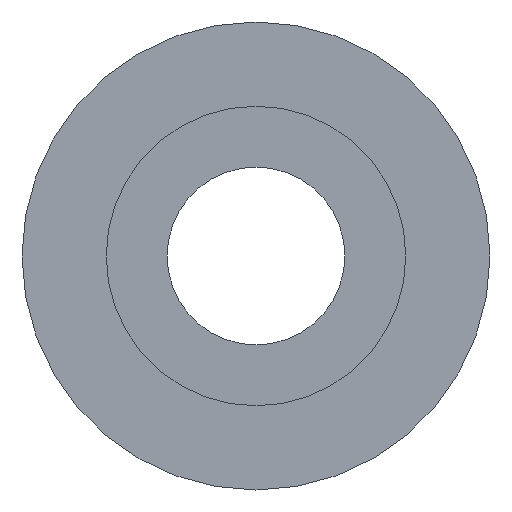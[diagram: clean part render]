
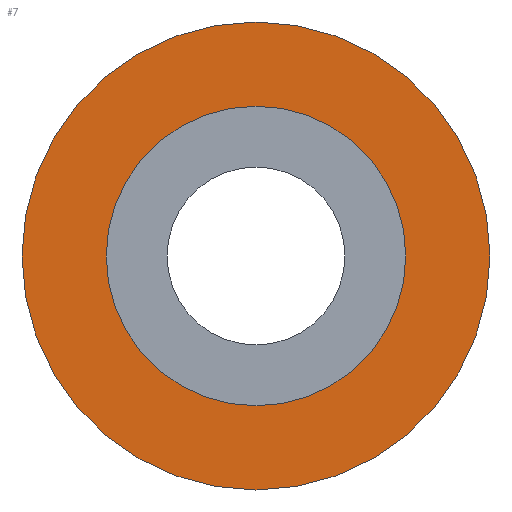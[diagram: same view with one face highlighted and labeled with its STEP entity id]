
A CAD part, front view. The second image highlights one B-rep face of the part: STEP entity #7.
In plain terms, the highlighted planar face has unit normal (0, -1, 0).
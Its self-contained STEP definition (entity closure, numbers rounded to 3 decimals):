
#7 = ADVANCED_FACE ( 'NONE', ( #242, #265 ), #195, .T. ) ;
#8 = DIRECTION ( 'NONE',  ( 0., 0., -1. ) ) ;
#9 = VERTEX_POINT ( 'NONE', #19 ) ;
#12 = AXIS2_PLACEMENT_3D ( 'NONE', #162, #30, #8 ) ;
#14 = CARTESIAN_POINT ( 'NONE',  ( -11.674, 25., -13.797 ) ) ;
#19 = CARTESIAN_POINT ( 'NONE',  ( -11.674, 25., -26.297 ) ) ;
#22 = CARTESIAN_POINT ( 'NONE',  ( -11.674, 25., -1.297 ) ) ;
#27 = CARTESIAN_POINT ( 'NONE',  ( -11.674, 25., -5.797 ) ) ;
#30 = DIRECTION ( 'NONE',  ( 0., -1., 0. ) ) ;
#37 = EDGE_LOOP ( 'NONE', ( #278, #256 ) ) ;
#44 = AXIS2_PLACEMENT_3D ( 'NONE', #67, #75, #168 ) ;
#47 = CARTESIAN_POINT ( 'NONE',  ( -11.674, 25., -13.797 ) ) ;
#57 = EDGE_CURVE ( 'NONE', #208, #183, #129, .T. ) ;
#62 = ORIENTED_EDGE ( 'NONE', *, *, #57, .F. ) ;
#65 = AXIS2_PLACEMENT_3D ( 'NONE', #174, #77, #155 ) ;
#67 = CARTESIAN_POINT ( 'NONE',  ( -11.674, 25., -13.797 ) ) ;
#71 = DIRECTION ( 'NONE',  ( 0., -1., 0. ) ) ;
#75 = DIRECTION ( 'NONE',  ( 0., -1., 0. ) ) ;
#77 = DIRECTION ( 'NONE',  ( 0., -1., 0. ) ) ;
#104 = DIRECTION ( 'NONE',  ( 0., 0., -1. ) ) ;
#110 = EDGE_LOOP ( 'NONE', ( #62, #111 ) ) ;
#111 = ORIENTED_EDGE ( 'NONE', *, *, #230, .F. ) ;
#114 = AXIS2_PLACEMENT_3D ( 'NONE', #47, #246, #104 ) ;
#129 = CIRCLE ( 'NONE', #44, 8. ) ;
#143 = CIRCLE ( 'NONE', #114, 12.5 ) ;
#151 = CARTESIAN_POINT ( 'NONE',  ( -11.674, 25., -21.797 ) ) ;
#155 = DIRECTION ( 'NONE',  ( 0., 0., -1. ) ) ;
#158 = EDGE_CURVE ( 'NONE', #9, #167, #166, .T. ) ;
#162 = CARTESIAN_POINT ( 'NONE',  ( -11.674, 25., -13.797 ) ) ;
#166 = CIRCLE ( 'NONE', #65, 12.5 ) ;
#167 = VERTEX_POINT ( 'NONE', #22 ) ;
#168 = DIRECTION ( 'NONE',  ( 0., 0., -1. ) ) ;
#174 = CARTESIAN_POINT ( 'NONE',  ( -11.674, 25., -13.797 ) ) ;
#183 = VERTEX_POINT ( 'NONE', #27 ) ;
#195 = PLANE ( 'NONE',  #241 ) ;
#205 = EDGE_CURVE ( 'NONE', #167, #9, #143, .T. ) ;
#208 = VERTEX_POINT ( 'NONE', #151 ) ;
#230 = EDGE_CURVE ( 'NONE', #183, #208, #264, .T. ) ;
#241 = AXIS2_PLACEMENT_3D ( 'NONE', #14, #71, #318 ) ;
#242 = FACE_BOUND ( 'NONE', #110, .T. ) ;
#246 = DIRECTION ( 'NONE',  ( 0., -1., 0. ) ) ;
#256 = ORIENTED_EDGE ( 'NONE', *, *, #205, .T. ) ;
#264 = CIRCLE ( 'NONE', #12, 8. ) ;
#265 = FACE_OUTER_BOUND ( 'NONE', #37, .T. ) ;
#278 = ORIENTED_EDGE ( 'NONE', *, *, #158, .T. ) ;
#318 = DIRECTION ( 'NONE',  ( 0., 0., -1. ) ) ;
